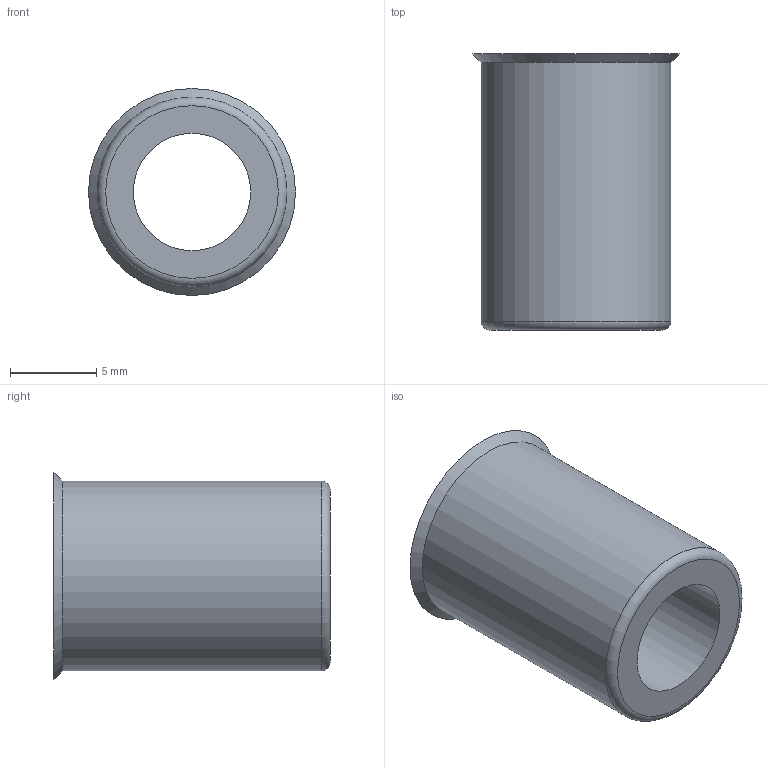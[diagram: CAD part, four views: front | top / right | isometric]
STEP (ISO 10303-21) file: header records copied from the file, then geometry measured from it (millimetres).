
FILE_DESCRIPTION (( 'STEP AP214' ), '1' );
FILE_NAME ('F10168.step', '2024-12-03T16:14:15', ( '' ), ( '' ), 'SwSTEP 2.0', 'SolidWorks 2023', '' );
FILE_SCHEMA (( 'AUTOMOTIVE_DESIGN' ));
Length unit declared in the file: millimetre
Products named in the file (1): F10168
Bounding box: 12 x 16 x 12 mm (x, y, z)
Volume: 764.6 mm3; surface area: 1075.9 mm2
Topology: 1 solids, 1 shells, 8 faces, 15 edges, 10 vertices
Faces by surface type: plane 3, cylinder 3, cone 1, torus 1
Full cylindrical faces by diameter (mm): 6.8 x1, 9 x1, 11 x1
Entity records: 191 total; most frequent: DIRECTION 34, CARTESIAN_POINT 25, AXIS2_PLACEMENT_3D 17, EDGE_LOOP 16, ORIENTED_EDGE 16, FACE_OUTER_BOUND 12, CIRCLE 8, ADVANCED_FACE 8
